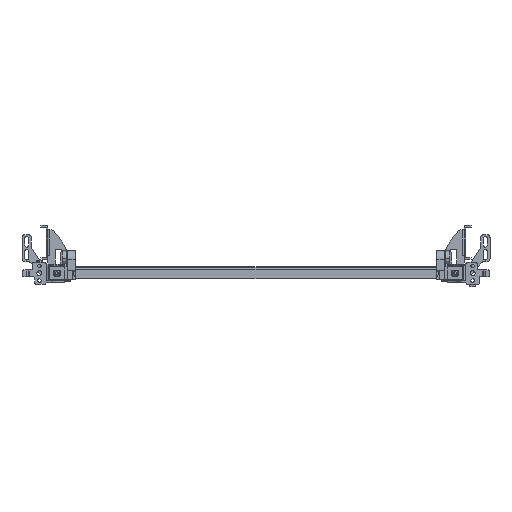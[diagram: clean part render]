
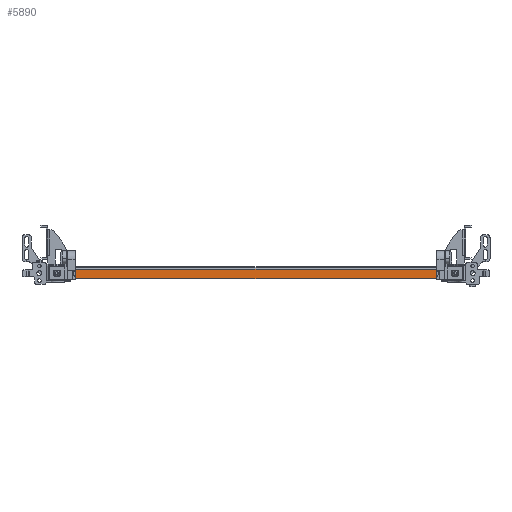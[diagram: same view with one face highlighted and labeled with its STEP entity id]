
A CAD part, front view. The second image highlights one B-rep face of the part: STEP entity #5890.
In plain terms, the highlighted planar face has unit normal (0, -1, 0).
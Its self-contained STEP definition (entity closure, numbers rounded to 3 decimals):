
#398 = CARTESIAN_POINT ( 'NONE',  ( 305.5, -748., -2.5 ) ) ;
#441 = AXIS2_PLACEMENT_3D ( 'NONE', #4022, #6722, #16648 ) ;
#762 = ORIENTED_EDGE ( 'NONE', *, *, #16512, .T. ) ;
#1117 = PLANE ( 'NONE',  #5888 ) ;
#1326 = EDGE_CURVE ( 'NONE', #13161, #16305, #2756, .T. ) ;
#1937 = DIRECTION ( 'NONE',  ( -1., 0., 0. ) ) ;
#2229 = DIRECTION ( 'NONE',  ( 0., -1., 0. ) ) ;
#2311 = CARTESIAN_POINT ( 'NONE',  ( -305.5, -748., -5. ) ) ;
#2317 = VECTOR ( 'NONE', #5643, 1000. ) ;
#2756 = CIRCLE ( 'NONE', #441, 1. ) ;
#2931 = ORIENTED_EDGE ( 'NONE', *, *, #13197, .F. ) ;
#3375 = LINE ( 'NONE', #12964, #17232 ) ;
#3674 = ORIENTED_EDGE ( 'NONE', *, *, #18078, .F. ) ;
#4022 = CARTESIAN_POINT ( 'NONE',  ( -304.5, -748., -20. ) ) ;
#5542 = CARTESIAN_POINT ( 'NONE',  ( -305.5, -748., -21. ) ) ;
#5643 = DIRECTION ( 'NONE',  ( 0., 0., 1. ) ) ;
#5888 = AXIS2_PLACEMENT_3D ( 'NONE', #17038, #10586, #6183 ) ;
#5890 = ADVANCED_FACE ( 'NONE', ( #20264 ), #1117, .F. ) ;
#5959 = EDGE_CURVE ( 'NONE', #6631, #16305, #3375, .T. ) ;
#6183 = DIRECTION ( 'NONE',  ( 0., 0., 1. ) ) ;
#6391 = LINE ( 'NONE', #398, #19457 ) ;
#6631 = VERTEX_POINT ( 'NONE', #16758 ) ;
#6722 = DIRECTION ( 'NONE',  ( 0., -1., 0. ) ) ;
#8413 = CARTESIAN_POINT ( 'NONE',  ( 305.5, -748., -5. ) ) ;
#8629 = VERTEX_POINT ( 'NONE', #11795 ) ;
#8776 = CARTESIAN_POINT ( 'NONE',  ( -305.5, -748., -20. ) ) ;
#9370 = ORIENTED_EDGE ( 'NONE', *, *, #12224, .F. ) ;
#9453 = ORIENTED_EDGE ( 'NONE', *, *, #1326, .T. ) ;
#10296 = LINE ( 'NONE', #8413, #18259 ) ;
#10498 = CIRCLE ( 'NONE', #10818, 1. ) ;
#10586 = DIRECTION ( 'NONE',  ( 0., 1., 0. ) ) ;
#10818 = AXIS2_PLACEMENT_3D ( 'NONE', #14633, #2229, #16195 ) ;
#10912 = VERTEX_POINT ( 'NONE', #16783 ) ;
#10999 = DIRECTION ( 'NONE',  ( 0., 0., -1. ) ) ;
#11795 = CARTESIAN_POINT ( 'NONE',  ( 305.5, -748., -20. ) ) ;
#12224 = EDGE_CURVE ( 'NONE', #17004, #10912, #10296, .T. ) ;
#12370 = ORIENTED_EDGE ( 'NONE', *, *, #5959, .F. ) ;
#12964 = CARTESIAN_POINT ( 'NONE',  ( 305.5, -748., -21. ) ) ;
#13161 = VERTEX_POINT ( 'NONE', #8776 ) ;
#13197 = EDGE_CURVE ( 'NONE', #13161, #17004, #18478, .T. ) ;
#14633 = CARTESIAN_POINT ( 'NONE',  ( 304.5, -748., -20. ) ) ;
#14995 = DIRECTION ( 'NONE',  ( 1., 0., 0. ) ) ;
#15377 = CARTESIAN_POINT ( 'NONE',  ( -304.5, -748., -21. ) ) ;
#16195 = DIRECTION ( 'NONE',  ( 0., 0., 1. ) ) ;
#16305 = VERTEX_POINT ( 'NONE', #15377 ) ;
#16512 = EDGE_CURVE ( 'NONE', #6631, #8629, #10498, .T. ) ;
#16648 = DIRECTION ( 'NONE',  ( 0., 0., 1. ) ) ;
#16758 = CARTESIAN_POINT ( 'NONE',  ( 304.5, -748., -21. ) ) ;
#16783 = CARTESIAN_POINT ( 'NONE',  ( 305.5, -748., -5. ) ) ;
#17004 = VERTEX_POINT ( 'NONE', #2311 ) ;
#17038 = CARTESIAN_POINT ( 'NONE',  ( 0., -748., 0. ) ) ;
#17232 = VECTOR ( 'NONE', #1937, 1000. ) ;
#17958 = EDGE_LOOP ( 'NONE', ( #2931, #9453, #12370, #762, #3674, #9370 ) ) ;
#18078 = EDGE_CURVE ( 'NONE', #10912, #8629, #6391, .T. ) ;
#18259 = VECTOR ( 'NONE', #14995, 1000. ) ;
#18478 = LINE ( 'NONE', #5542, #2317 ) ;
#19457 = VECTOR ( 'NONE', #10999, 1000. ) ;
#20264 = FACE_OUTER_BOUND ( 'NONE', #17958, .T. ) ;
